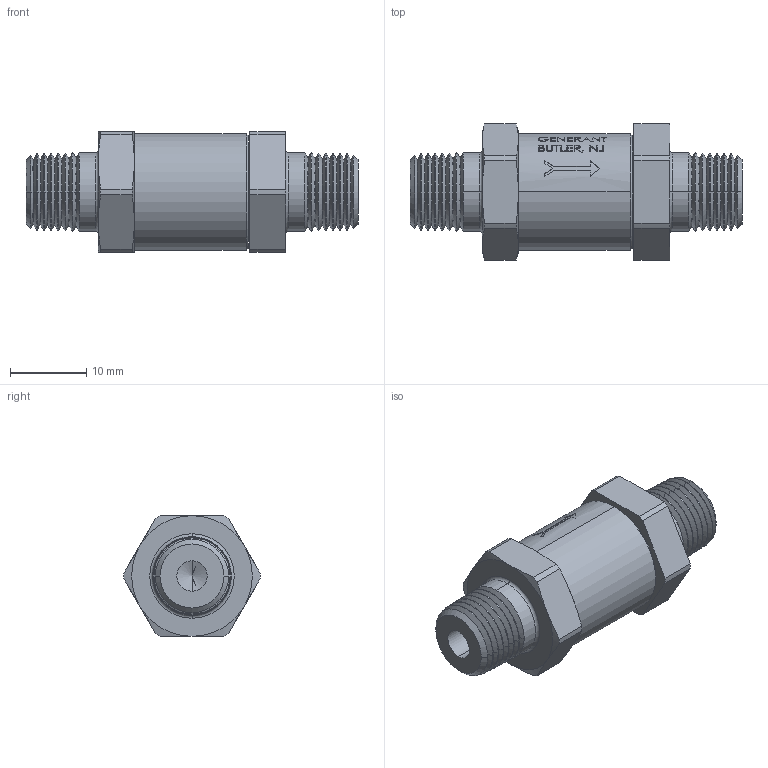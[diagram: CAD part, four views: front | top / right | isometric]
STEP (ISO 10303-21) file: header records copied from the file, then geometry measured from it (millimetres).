
FILE_DESCRIPTION (( 'STEP AP203' ), '1' );
FILE_NAME ('PCV-2P.STEP', '2013-04-26T13:10:29', ( '' ), ( '' ), 'SwSTEP 2.0', 'SolidWorks 2011', '' );
FILE_SCHEMA (( 'CONFIG_CONTROL_DESIGN' ));
Length unit declared in the file: inch
Products named in the file (2): Part2^PCV-2P_CM; PCV-2P
Assembly tree (1 placements, depth 2):
  PCV-2P
    Part2^PCV-2P_CM
Bounding box: 43.66 x 17.91 x 15.88 mm (x, y, z)
Volume: 6098.3 mm3; surface area: 2916.2 mm2
Topology: 1 solids, 1 shells, 400 faces, 978 edges, 606 vertices
Faces by surface type: plane 149, cone 130, bspline 70, cylinder 47, torus 4
Entity records: 15236 total; most frequent: CARTESIAN_POINT 6150, ORIENTED_EDGE 1948, DIRECTION 1686, EDGE_CURVE 974, AXIS2_PLACEMENT_3D 640, VERTEX_POINT 606, EDGE_LOOP 430, LINE 406
